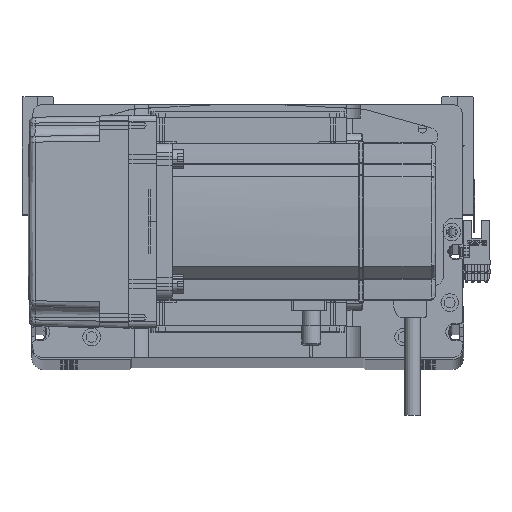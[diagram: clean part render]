
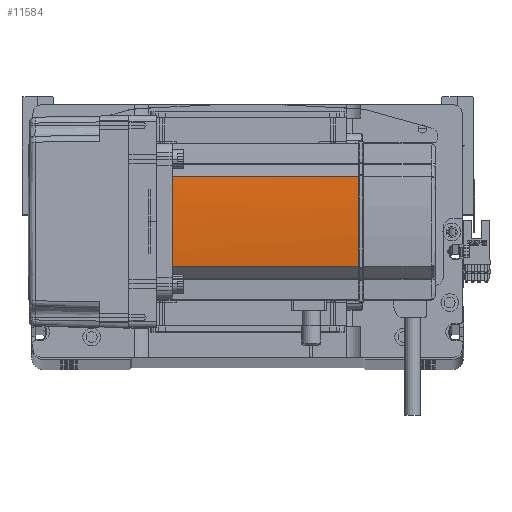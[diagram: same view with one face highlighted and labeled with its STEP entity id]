
A CAD part, top view. The second image highlights one B-rep face of the part: STEP entity #11584.
In plain terms, the highlighted cylindrical face has radius 270 mm (diameter 540 mm), a partial arc.
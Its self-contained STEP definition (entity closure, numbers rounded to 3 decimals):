
#2422 = AXIS2_PLACEMENT_3D ( 'NONE', #5311, #54785, #35878 ) ;
#2763 = DIRECTION ( 'NONE',  ( 0., 0., 1. ) ) ;
#3342 = LINE ( 'NONE', #13838, #29920 ) ;
#5311 = CARTESIAN_POINT ( 'NONE',  ( -230., 0., 39. ) ) ;
#6633 = AXIS2_PLACEMENT_3D ( 'NONE', #48865, #18173, #39823 ) ;
#8079 = CARTESIAN_POINT ( 'NONE',  ( 39.042, 22.724, 58. ) ) ;
#10608 = CYLINDRICAL_SURFACE ( 'NONE', #17007, 270. ) ;
#11584 = ADVANCED_FACE ( 'NONE', ( #40189 ), #10608, .T. ) ;
#12386 = CARTESIAN_POINT ( 'NONE',  ( 39.042, 22.724, 134. ) ) ;
#13107 = CIRCLE ( 'NONE', #2422, 270. ) ;
#13414 = EDGE_CURVE ( 'NONE', #29655, #55580, #41150, .T. ) ;
#13732 = EDGE_CURVE ( 'NONE', #29655, #15358, #17597, .T. ) ;
#13838 = CARTESIAN_POINT ( 'NONE',  ( 39.042, -22.724, 58. ) ) ;
#15358 = VERTEX_POINT ( 'NONE', #25227 ) ;
#16120 = DIRECTION ( 'NONE',  ( -1., 0., 0. ) ) ;
#17007 = AXIS2_PLACEMENT_3D ( 'NONE', #49771, #22792, #16120 ) ;
#17597 = CIRCLE ( 'NONE', #6633, 270. ) ;
#18060 = CARTESIAN_POINT ( 'NONE',  ( 40., -0.042, 134. ) ) ;
#18173 = DIRECTION ( 'NONE',  ( 0., 0., -1. ) ) ;
#19021 = CIRCLE ( 'NONE', #31930, 270. ) ;
#19991 = DIRECTION ( 'NONE',  ( -1., 0., 0. ) ) ;
#20687 = EDGE_CURVE ( 'NONE', #40572, #55580, #19021, .T. ) ;
#22792 = DIRECTION ( 'NONE',  ( 0., 0., -1. ) ) ;
#22942 = CARTESIAN_POINT ( 'NONE',  ( 40., -0.127, 134. ) ) ;
#24434 = EDGE_CURVE ( 'NONE', #58001, #57097, #13107, .T. ) ;
#25227 = CARTESIAN_POINT ( 'NONE',  ( 39.042, -22.724, 134. ) ) ;
#27309 = DIRECTION ( 'NONE',  ( 0., 0., -1. ) ) ;
#29655 = VERTEX_POINT ( 'NONE', #48521 ) ;
#29920 = VECTOR ( 'NONE', #27309, 1000. ) ;
#31930 = AXIS2_PLACEMENT_3D ( 'NONE', #51694, #46910, #19991 ) ;
#34669 = EDGE_CURVE ( 'NONE', #58001, #40572, #53725, .T. ) ;
#35878 = DIRECTION ( 'NONE',  ( -1., 0., 0. ) ) ;
#36915 = ORIENTED_EDGE ( 'NONE', *, *, #53106, .T. ) ;
#39823 = DIRECTION ( 'NONE',  ( -1., 0., 0. ) ) ;
#40189 = FACE_OUTER_BOUND ( 'NONE', #50214, .T. ) ;
#40572 = VERTEX_POINT ( 'NONE', #12386 ) ;
#40990 = VECTOR ( 'NONE', #2763, 1000. ) ;
#41150 = B_SPLINE_CURVE_WITH_KNOTS ( 'NONE', 3,
 ( #22942, #18060, #45537, #45145 ),
 .UNSPECIFIED., .F., .F.,
 ( 4, 4 ),
 ( 0., 1. ),
 .UNSPECIFIED. ) ;
#41936 = ORIENTED_EDGE ( 'NONE', *, *, #13414, .F. ) ;
#43830 = ORIENTED_EDGE ( 'NONE', *, *, #13732, .T. ) ;
#45145 = CARTESIAN_POINT ( 'NONE',  ( 40., 0.127, 134. ) ) ;
#45370 = ORIENTED_EDGE ( 'NONE', *, *, #20687, .T. ) ;
#45537 = CARTESIAN_POINT ( 'NONE',  ( 40., 0.042, 134. ) ) ;
#46910 = DIRECTION ( 'NONE',  ( 0., 0., -1. ) ) ;
#48521 = CARTESIAN_POINT ( 'NONE',  ( 40., -0.127, 134. ) ) ;
#48865 = CARTESIAN_POINT ( 'NONE',  ( -230., 0., 134. ) ) ;
#49771 = CARTESIAN_POINT ( 'NONE',  ( -230., 0., 58. ) ) ;
#50214 = EDGE_LOOP ( 'NONE', ( #36915, #50532, #57277, #45370, #41936, #43830 ) ) ;
#50532 = ORIENTED_EDGE ( 'NONE', *, *, #24434, .F. ) ;
#51694 = CARTESIAN_POINT ( 'NONE',  ( -230., 0., 134. ) ) ;
#53106 = EDGE_CURVE ( 'NONE', #15358, #57097, #3342, .T. ) ;
#53725 = LINE ( 'NONE', #8079, #40990 ) ;
#54785 = DIRECTION ( 'NONE',  ( 0., 0., -1. ) ) ;
#54895 = CARTESIAN_POINT ( 'NONE',  ( 40., 0.127, 134. ) ) ;
#55580 = VERTEX_POINT ( 'NONE', #54895 ) ;
#55822 = CARTESIAN_POINT ( 'NONE',  ( 39.042, 22.724, 39. ) ) ;
#56044 = CARTESIAN_POINT ( 'NONE',  ( 39.042, -22.724, 39. ) ) ;
#57097 = VERTEX_POINT ( 'NONE', #56044 ) ;
#57277 = ORIENTED_EDGE ( 'NONE', *, *, #34669, .T. ) ;
#58001 = VERTEX_POINT ( 'NONE', #55822 ) ;
